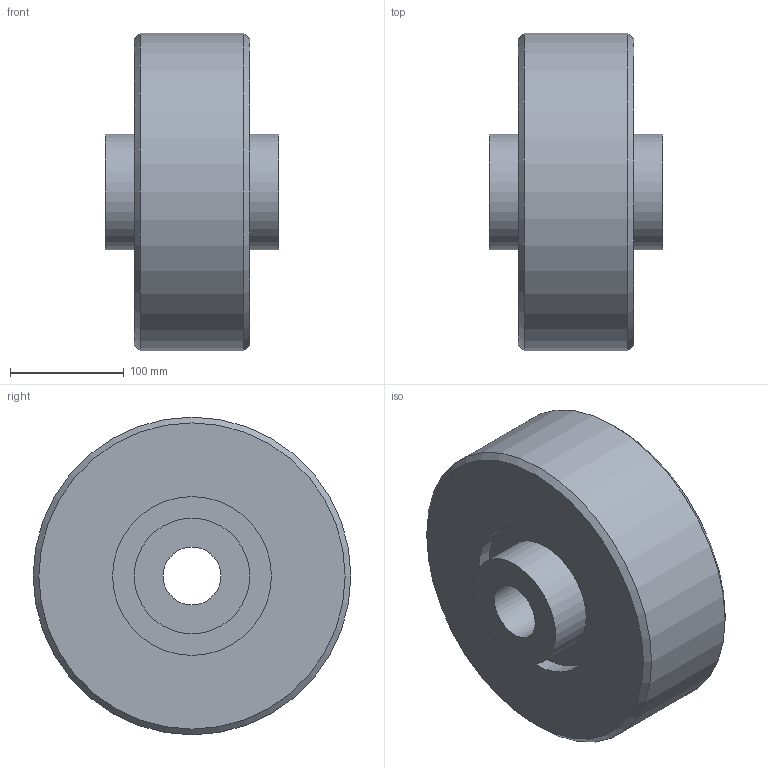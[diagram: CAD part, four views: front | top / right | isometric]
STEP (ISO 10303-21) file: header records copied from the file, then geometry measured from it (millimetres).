
FILE_DESCRIPTION((''),'1');
FILE_NAME('H:/図庫/国内ﾕﾆｯﾄ/ｶﾀﾛｸﾞ/ｸﾘｰﾌﾟﾌﾘｰ/ホームページ用ＣＡＤ図面/3D/update用', '2017-07-12T05:56:38',(''), (''), 'KCM Version 1.1.1442.0', 'Kubotek KeyCreator', '');
FILE_SCHEMA(('AUTOMOTIVE_DESIGN'));
Length unit declared in the file: inch
Bounding box: 152.4 x 279.4 x 279.4 mm (x, y, z)
Surface area: 262250.3 mm2 (no closed solid volume)
Topology: 0 solids, 14 shells, 14 faces, 36 edges, 28 vertices
Faces by surface type: cylinder 6, plane 6, cone 2
Full cylindrical faces by diameter (mm): 50.8 x1, 101.6 x2, 139.7 x2, 279.4 x1
Entity records: 482 total; most frequent: DIRECTION 94, CARTESIAN_POINT 79, ORIENTED_EDGE 44, AXIS2_PLACEMENT_3D 43, EDGE_CURVE 36, VERTEX_POINT 28, CIRCLE 28, EDGE_LOOP 20
